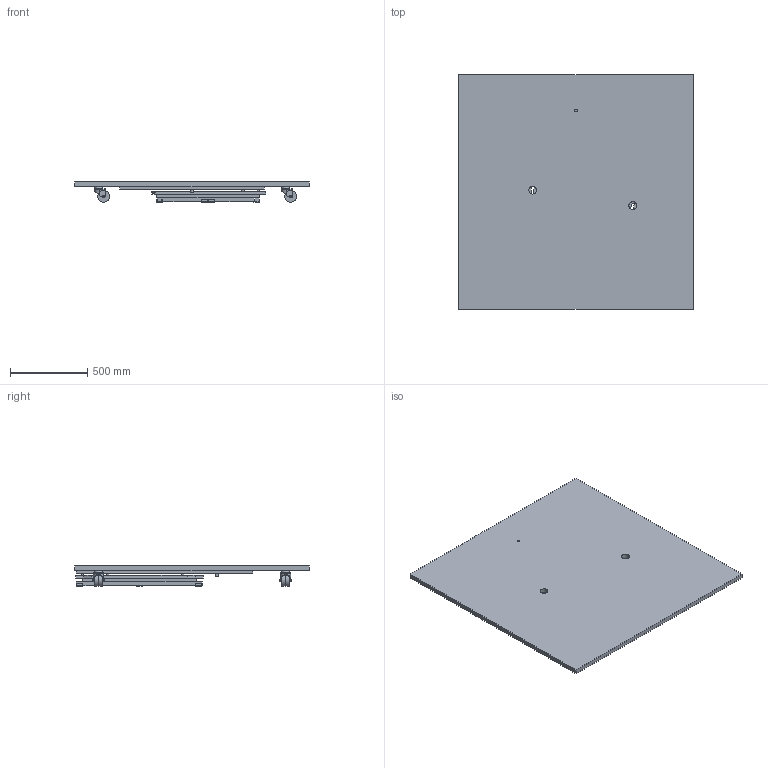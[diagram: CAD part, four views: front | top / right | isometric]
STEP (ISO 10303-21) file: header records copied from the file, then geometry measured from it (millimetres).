
FILE_DESCRIPTION( ( 'STEP AP214' ), '1' );
FILE_NAME( 'D:/YUG/2025/QC/roomspin/roomspin_1600_0.stp', '2025-04-02T11:26:14', ( '' ), ( '' ), ' ', 'PARTsolutions', ' ' );
FILE_SCHEMA( ( 'AUTOMOTIVE_DESIGN { 1 0 10303 214 1 1 1 1 }' ) );
Length unit declared in the file: millimetre
Products named in the file (5): 12959711 dummy_rs1600 _0; _base_element_1600; _functional_element_1600; _base_plate_1600; _roles
Assembly tree (7 placements, depth 2):
  12959711 dummy_rs1600 _0
    _base_element_1600
    _functional_element_1600
    _base_plate_1600
    _roles  x4
Bounding box: 1516 x 1516 x 131 mm (x, y, z)
Volume: 113956806.6 mm3; surface area: 8707429.2 mm2
Topology: 7 solids, 15 shells, 428 faces, 1016 edges, 666 vertices
Faces by surface type: plane 286, cylinder 138, bspline 4
Full cylindrical faces by diameter (mm): 5 x16, 5.4 x13, 8 x6, 8.3 x2, 9 x4, 10 x20, 15 x1, 16 x4, 50 x4, 75 x8
Entity records: 9905 total; most frequent: CARTESIAN_POINT 1311, DIRECTION 1298, ORIENTED_EDGE 1176, EDGE_CURVE 588, LINE 436, VECTOR 436, AXIS2_PLACEMENT_3D 431, VERTEX_POINT 416
